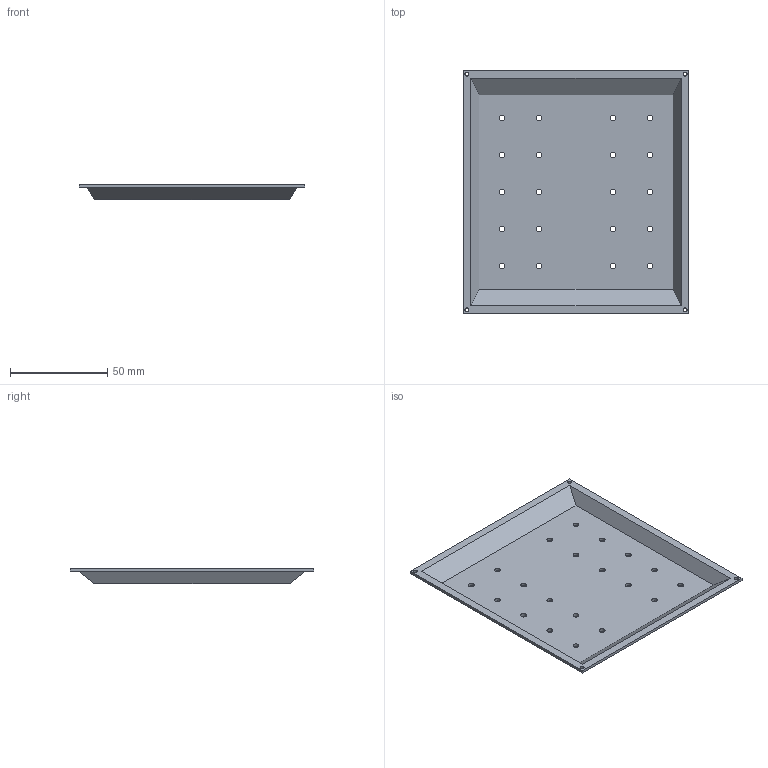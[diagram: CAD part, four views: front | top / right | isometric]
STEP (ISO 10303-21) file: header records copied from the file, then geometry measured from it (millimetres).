
FILE_DESCRIPTION (( 'STEP AP214' ), '1' );
FILE_NAME ('Ð¡³µÔØÎï¿ò.STEP', '2023-02-23T03:26:09', ( '' ), ( '' ), 'SwSTEP 2.0', 'SolidWorks 2022', '' );
FILE_SCHEMA (( 'AUTOMOTIVE_DESIGN' ));
Length unit declared in the file: millimetre
Products named in the file (1): 小车载物框
Bounding box: 116 x 125 x 8 mm (x, y, z)
Volume: 21519.1 mm3; surface area: 32227.3 mm2
Topology: 1 solids, 1 shells, 64 faces, 180 edges, 120 vertices
Faces by surface type: cylinder 48, plane 16
Entity records: 2250 total; most frequent: DIRECTION 406, CARTESIAN_POINT 365, ORIENTED_EDGE 360, EDGE_CURVE 180, AXIS2_PLACEMENT_3D 161, VERTEX_POINT 120, EDGE_LOOP 114, CIRCLE 96
